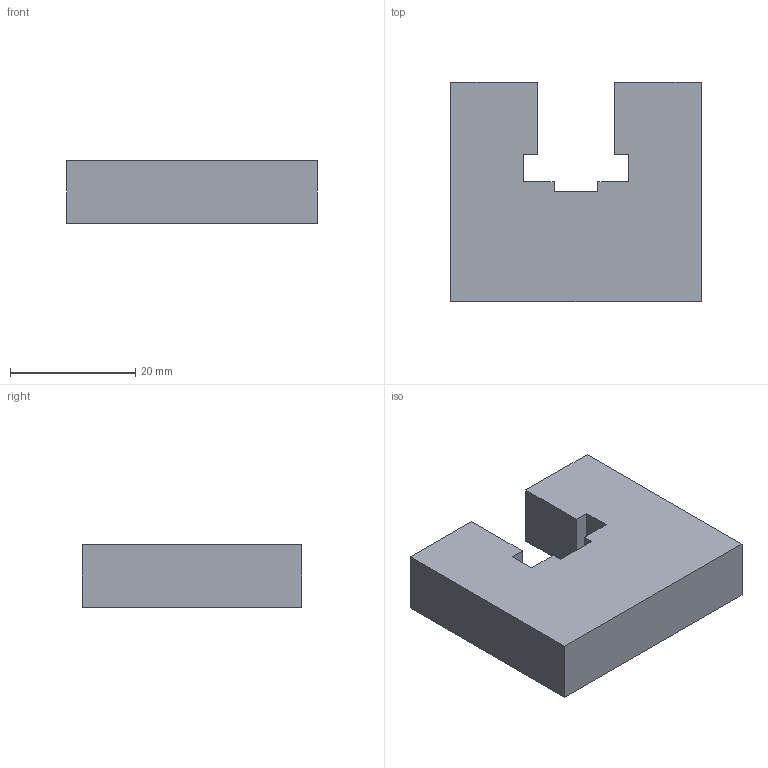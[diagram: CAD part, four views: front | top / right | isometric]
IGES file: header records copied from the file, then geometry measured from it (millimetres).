
Start section: SolidWorks IGES file using analytic representation for surfaces
Global section: file name: C:\Documents and Settings\ARGE\Desktop\yeni katalog tolgay düzenli\E kataloðu\ALPOLEN 1000 MODEL BL TÝPÝ ZÝNCÝR KIZAKLARI\207 BL3 034.IGS; native system: SolidWorks 2006 by SolidWorks Corporation; preprocessor: SolidWorks 2006 by SolidWorks Corporation; author: ARGE2; date: 060912.183839; units: millimetre
Bounding box: 40 x 35 x 10 mm (x, y, z)
Surface area: 4288 mm2 (no closed solid volume)
Topology: 0 solids, 0 shells, 18 faces, 96 edges, 96 vertices
Faces by surface type: bspline 18
